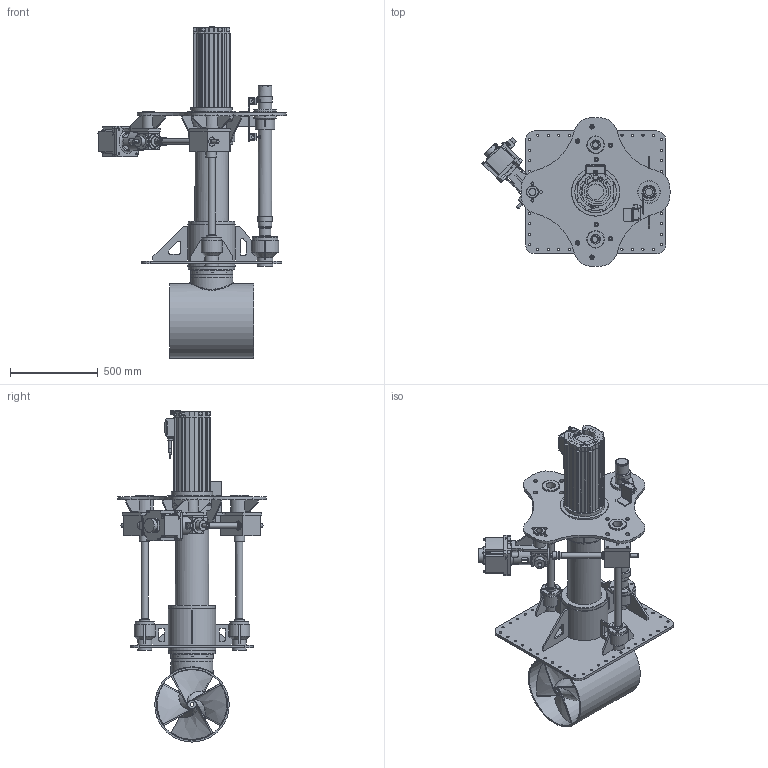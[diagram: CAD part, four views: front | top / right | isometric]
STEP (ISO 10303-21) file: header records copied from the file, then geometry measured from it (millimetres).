
FILE_DESCRIPTION(/* description */ (''),/* implementation_level */ '2;1');
FILE_NAME(/* name */ 'Q:\THRUSTERS\THRUSTER SALES & SUPPORT DOCS\THRUSTER Sales\E-V\E-0400-V\E-0400-V-RETRACTED.stp',/* time_stamp */ '2021-03-03T09:35:14+00:00',/* author */ ('Barney.Webborn'),/* organization */ (''),/* preprocessor_version */ 'ST-DEVELOPER v17.2',/* originating_system */ 'Autodesk Inventor 2019',/* authorisation */ '');
FILE_SCHEMA (('AUTOMOTIVE_DESIGN { 1 0 10303 214 3 1 1 }'));
Length unit declared in the file: millimetre
Products named in the file (1): E-0400-V_Shrinkwrap_1
Bounding box: 1073.69 x 849.72 x 1895.67 mm (x, y, z)
Volume: 74555351.4 mm3; surface area: 9049776.6 mm2
Topology: 13 solids, 21 shells, 2724 faces, 7352 edges, 4881 vertices
Faces by surface type: plane 1413, cylinder 955, cone 190, bspline 84, torus 74, sphere 8
Full cylindrical faces by diameter (mm): 1.143 x17, 3 x4, 5.5 x4, 5.6 x4, 5.9 x8, 6 x4, 7 x8, 7.2 x2, 7.6 x8, 8 x9, 8.5 x4, 9.2 x4, 9.398 x3, 11.938 x3, 12 x1, 12.066 x3, 12.4 x18, 12.5 x8, 13 x82, 13.5 x4, 14.097 x3, 14.098 x3, 14.95 x2, 14.986 x3, 15.25 x2, 15.3 x1, 15.4 x8, 16 x11, 16.51 x3, 17 x2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
Entity records: 95330 total; most frequent: CARTESIAN_POINT 21715, DIRECTION 14871, ORIENTED_EDGE 14630, EDGE_CURVE 7315, AXIS2_PLACEMENT_3D 5475, VERTEX_POINT 4881, LINE 3921, VECTOR 3921
